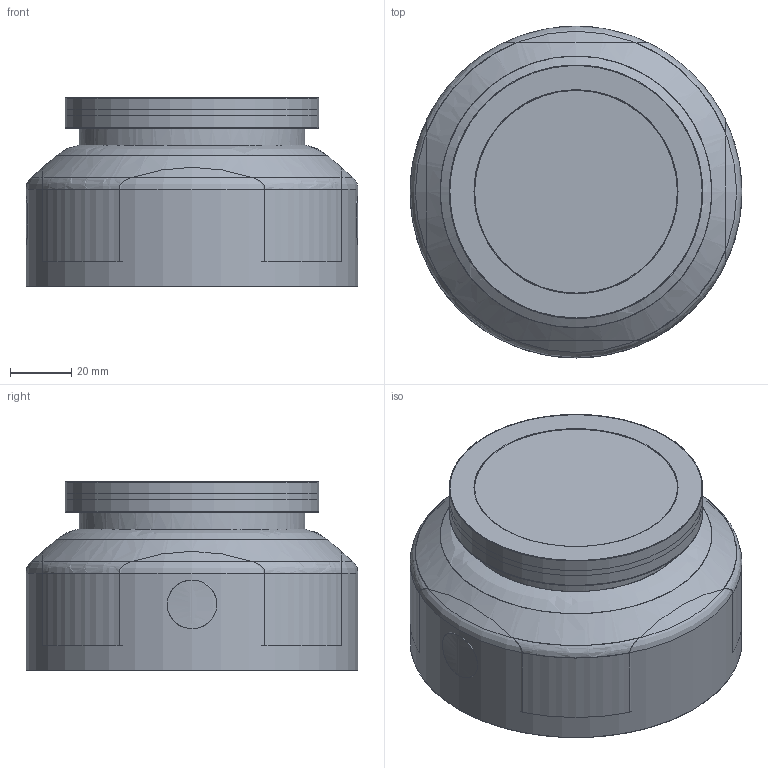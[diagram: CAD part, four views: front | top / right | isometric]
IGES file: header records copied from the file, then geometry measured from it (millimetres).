
Global section: file name: 203HD:\2019年---五轴大赛样题\2---2019五轴大赛样题 - 避免混乱\0---样题 - （修改）\2019五轴大赛样题\样题－2019年“精雕杯”五轴数控加工技能大赛（9.11）待审\附件1\IGS（样题）\工件及毛坯（样题）\工件2（样题）.igs; native system: NX V10.0; preprocessor: SIEMENS PLM Software NX 10.0; date: 20190912.085612; units: millimetre
Bounding box: 108 x 108 x 61.5 mm (x, y, z)
Surface area: 93481.6 mm2 (no closed solid volume)
Topology: 0 solids, 0 shells, 136 faces, 1818 edges, 1779 vertices
Faces by surface type: revolution 88, bspline 48
